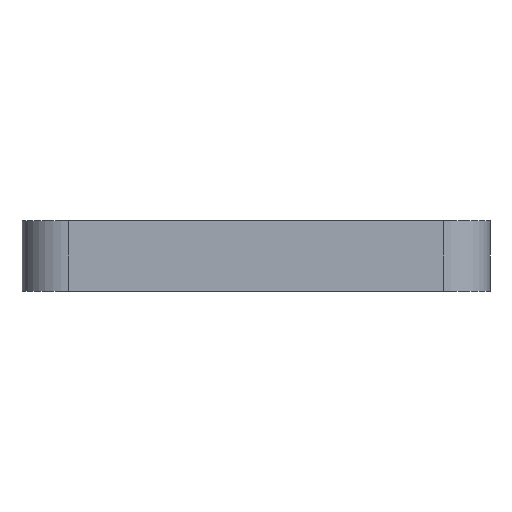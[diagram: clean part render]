
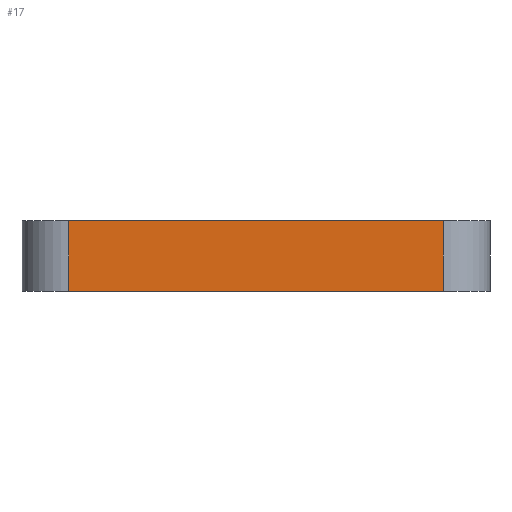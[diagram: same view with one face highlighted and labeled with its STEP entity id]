
A CAD part, left-side view. The second image highlights one B-rep face of the part: STEP entity #17.
In plain terms, the highlighted planar face has unit normal (-1, 0, 0).
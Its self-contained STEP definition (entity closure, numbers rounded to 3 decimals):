
#17 = ADVANCED_FACE('',(#18),#32,.F.);
#18 = FACE_BOUND('',#19,.F.);
#19 = EDGE_LOOP('',(#20,#55,#83,#111));
#20 = ORIENTED_EDGE('',*,*,#21,.F.);
#21 = EDGE_CURVE('',#22,#24,#26,.T.);
#22 = VERTEX_POINT('',#23);
#23 = CARTESIAN_POINT('',(-10.,-8.,3.));
#24 = VERTEX_POINT('',#25);
#25 = CARTESIAN_POINT('',(-10.,8.,3.));
#26 = SURFACE_CURVE('',#27,(#31,#43),.PCURVE_S1.);
#27 = LINE('',#28,#29);
#28 = CARTESIAN_POINT('',(-10.,-10.,3.));
#29 = VECTOR('',#30,1.);
#30 = DIRECTION('',(0.,1.,0.));
#31 = PCURVE('',#32,#37);
#32 = PLANE('',#33);
#33 = AXIS2_PLACEMENT_3D('',#34,#35,#36);
#34 = CARTESIAN_POINT('',(-10.,-10.,0.));
#35 = DIRECTION('',(1.,0.,0.));
#36 = DIRECTION('',(0.,0.,1.));
#37 = DEFINITIONAL_REPRESENTATION('',(#38),#42);
#38 = LINE('',#39,#40);
#39 = CARTESIAN_POINT('',(3.,0.));
#40 = VECTOR('',#41,1.);
#41 = DIRECTION('',(0.,-1.));
#42 = ( GEOMETRIC_REPRESENTATION_CONTEXT(2) 
PARAMETRIC_REPRESENTATION_CONTEXT() REPRESENTATION_CONTEXT('2D SPACE',''
  ) );
#43 = PCURVE('',#44,#49);
#44 = PLANE('',#45);
#45 = AXIS2_PLACEMENT_3D('',#46,#47,#48);
#46 = CARTESIAN_POINT('',(-10.,-10.,3.));
#47 = DIRECTION('',(0.,0.,1.));
#48 = DIRECTION('',(1.,0.,0.));
#49 = DEFINITIONAL_REPRESENTATION('',(#50),#54);
#50 = LINE('',#51,#52);
#51 = CARTESIAN_POINT('',(0.,0.));
#52 = VECTOR('',#53,1.);
#53 = DIRECTION('',(0.,1.));
#54 = ( GEOMETRIC_REPRESENTATION_CONTEXT(2) 
PARAMETRIC_REPRESENTATION_CONTEXT() REPRESENTATION_CONTEXT('2D SPACE',''
  ) );
#55 = ORIENTED_EDGE('',*,*,#56,.F.);
#56 = EDGE_CURVE('',#57,#22,#59,.T.);
#57 = VERTEX_POINT('',#58);
#58 = CARTESIAN_POINT('',(-10.,-8.,0.));
#59 = SURFACE_CURVE('',#60,(#64,#71),.PCURVE_S1.);
#60 = LINE('',#61,#62);
#61 = CARTESIAN_POINT('',(-10.,-8.,0.));
#62 = VECTOR('',#63,1.);
#63 = DIRECTION('',(0.,0.,1.));
#64 = PCURVE('',#32,#65);
#65 = DEFINITIONAL_REPRESENTATION('',(#66),#70);
#66 = LINE('',#67,#68);
#67 = CARTESIAN_POINT('',(0.,-2.));
#68 = VECTOR('',#69,1.);
#69 = DIRECTION('',(1.,0.));
#70 = ( GEOMETRIC_REPRESENTATION_CONTEXT(2) 
PARAMETRIC_REPRESENTATION_CONTEXT() REPRESENTATION_CONTEXT('2D SPACE',''
  ) );
#71 = PCURVE('',#72,#77);
#72 = CYLINDRICAL_SURFACE('',#73,2.);
#73 = AXIS2_PLACEMENT_3D('',#74,#75,#76);
#74 = CARTESIAN_POINT('',(-8.,-8.,0.));
#75 = DIRECTION('',(0.,0.,1.));
#76 = DIRECTION('',(-1.,-0.,0.));
#77 = DEFINITIONAL_REPRESENTATION('',(#78),#82);
#78 = LINE('',#79,#80);
#79 = CARTESIAN_POINT('',(0.,0.));
#80 = VECTOR('',#81,1.);
#81 = DIRECTION('',(0.,1.));
#82 = ( GEOMETRIC_REPRESENTATION_CONTEXT(2) 
PARAMETRIC_REPRESENTATION_CONTEXT() REPRESENTATION_CONTEXT('2D SPACE',''
  ) );
#83 = ORIENTED_EDGE('',*,*,#84,.T.);
#84 = EDGE_CURVE('',#57,#85,#87,.T.);
#85 = VERTEX_POINT('',#86);
#86 = CARTESIAN_POINT('',(-10.,8.,0.));
#87 = SURFACE_CURVE('',#88,(#92,#99),.PCURVE_S1.);
#88 = LINE('',#89,#90);
#89 = CARTESIAN_POINT('',(-10.,-10.,0.));
#90 = VECTOR('',#91,1.);
#91 = DIRECTION('',(0.,1.,0.));
#92 = PCURVE('',#32,#93);
#93 = DEFINITIONAL_REPRESENTATION('',(#94),#98);
#94 = LINE('',#95,#96);
#95 = CARTESIAN_POINT('',(0.,0.));
#96 = VECTOR('',#97,1.);
#97 = DIRECTION('',(0.,-1.));
#98 = ( GEOMETRIC_REPRESENTATION_CONTEXT(2) 
PARAMETRIC_REPRESENTATION_CONTEXT() REPRESENTATION_CONTEXT('2D SPACE',''
  ) );
#99 = PCURVE('',#100,#105);
#100 = PLANE('',#101);
#101 = AXIS2_PLACEMENT_3D('',#102,#103,#104);
#102 = CARTESIAN_POINT('',(-10.,-10.,0.));
#103 = DIRECTION('',(0.,0.,1.));
#104 = DIRECTION('',(1.,0.,0.));
#105 = DEFINITIONAL_REPRESENTATION('',(#106),#110);
#106 = LINE('',#107,#108);
#107 = CARTESIAN_POINT('',(0.,0.));
#108 = VECTOR('',#109,1.);
#109 = DIRECTION('',(0.,1.));
#110 = ( GEOMETRIC_REPRESENTATION_CONTEXT(2) 
PARAMETRIC_REPRESENTATION_CONTEXT() REPRESENTATION_CONTEXT('2D SPACE',''
  ) );
#111 = ORIENTED_EDGE('',*,*,#112,.T.);
#112 = EDGE_CURVE('',#85,#24,#113,.T.);
#113 = SURFACE_CURVE('',#114,(#118,#125),.PCURVE_S1.);
#114 = LINE('',#115,#116);
#115 = CARTESIAN_POINT('',(-10.,8.,0.));
#116 = VECTOR('',#117,1.);
#117 = DIRECTION('',(0.,0.,1.));
#118 = PCURVE('',#32,#119);
#119 = DEFINITIONAL_REPRESENTATION('',(#120),#124);
#120 = LINE('',#121,#122);
#121 = CARTESIAN_POINT('',(0.,-18.));
#122 = VECTOR('',#123,1.);
#123 = DIRECTION('',(1.,0.));
#124 = ( GEOMETRIC_REPRESENTATION_CONTEXT(2) 
PARAMETRIC_REPRESENTATION_CONTEXT() REPRESENTATION_CONTEXT('2D SPACE',''
  ) );
#125 = PCURVE('',#126,#131);
#126 = CYLINDRICAL_SURFACE('',#127,2.);
#127 = AXIS2_PLACEMENT_3D('',#128,#129,#130);
#128 = CARTESIAN_POINT('',(-8.,8.,0.));
#129 = DIRECTION('',(0.,0.,1.));
#130 = DIRECTION('',(-1.,-0.,0.));
#131 = DEFINITIONAL_REPRESENTATION('',(#132),#136);
#132 = LINE('',#133,#134);
#133 = CARTESIAN_POINT('',(-0.,0.));
#134 = VECTOR('',#135,1.);
#135 = DIRECTION('',(-0.,1.));
#136 = ( GEOMETRIC_REPRESENTATION_CONTEXT(2) 
PARAMETRIC_REPRESENTATION_CONTEXT() REPRESENTATION_CONTEXT('2D SPACE',''
  ) );
